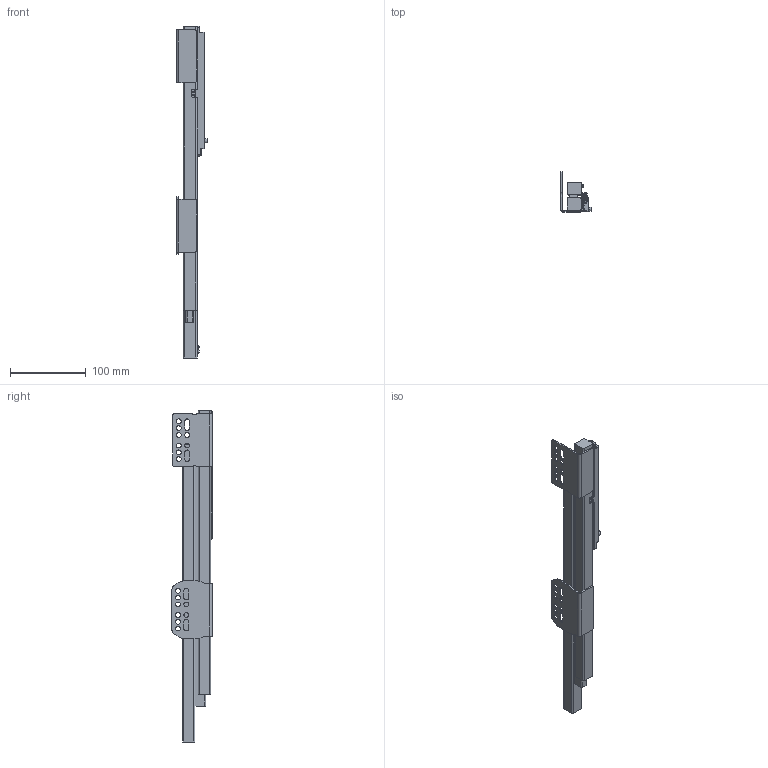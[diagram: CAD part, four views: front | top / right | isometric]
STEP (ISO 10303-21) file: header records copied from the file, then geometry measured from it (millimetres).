
FILE_DESCRIPTION (( 'STEP AP203' ), '1' );
FILE_NAME ('HB014504GX-L(闭合).STEP', '2025-05-13T07:21:41', ( '微软用户' ), ( '微软中国' ), 'SwSTEP 2.0', 'SolidWorks 2021', '' );
FILE_SCHEMA (( 'CONFIG_CONTROL_DESIGN' ));
Products named in the file (1): HB014504GX-L(敕磁)
Bounding box: 40.83 x 53 x 438.9 mm (x, y, z)
Volume: 284506.4 mm3; surface area: 76522.6 mm2
Topology: 3 solids, 3 shells, 1191 faces, 3204 edges, 2003 vertices
Faces by surface type: cylinder 487, plane 367, torus 158, bspline 127, cone 44, sphere 8
Entity records: 68161 total; most frequent: CARTESIAN_POINT 39402, ORIENTED_EDGE 6344, DIRECTION 5801, EDGE_CURVE 3172, AXIS2_PLACEMENT_3D 2188, VERTEX_POINT 2003, LINE 1425, VECTOR 1425
